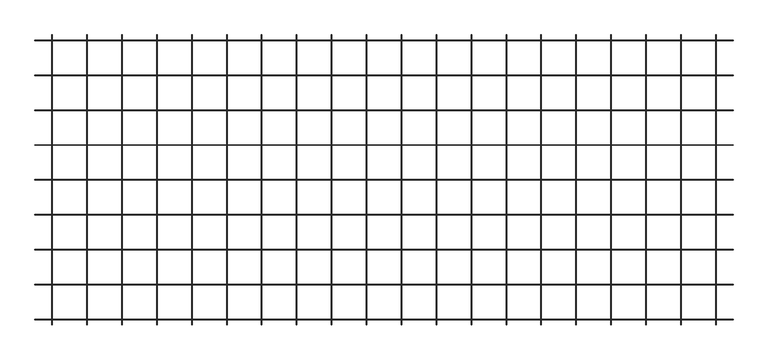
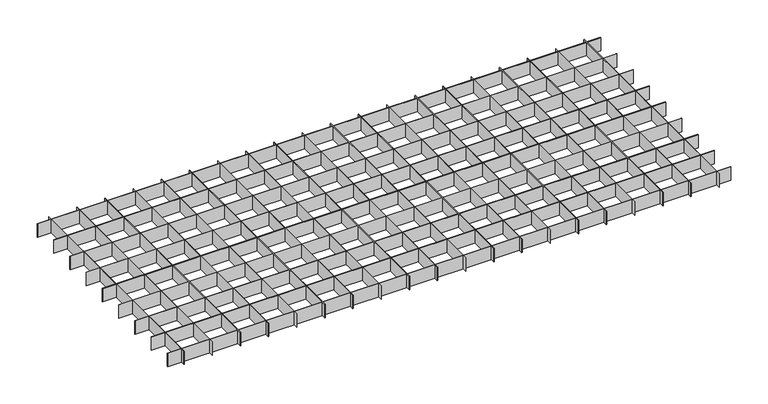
"""IFC4 building model written with IfcOpenShell, lengths in millimetres: proxy geometry, durlum_QUADRA_panel : durlum_QUADRA_width_cut."""

from ifc_helpers import new_model, si_unit, origin, origin_with_axes, place, context, project, spatial, polyline, outline, extrude, source, transform, mapped, element, save


def generic_models_770e7c39(model_context):
    return source(origin(), model_context, "Body", "SweptSolid", [
        extrude(outline(polyline([(509.6, 249.5), (510.4, 249.5), (510.4, -249.5), (509.6, -249.5), (509.6, 249.5)])), origin_with_axes(), (0.0, 0.0, 1.0), 30.0),
        extrude(outline(polyline([(449.6, 249.5), (450.4, 249.5), (450.4, -249.5), (449.6, -249.5), (449.6, 249.5)])), origin_with_axes(), (0.0, 0.0, 1.0), 30.0),
        extrude(outline(polyline([(389.6, 249.5), (390.4, 249.5), (390.4, -249.5), (389.6, -249.5), (389.6, 249.5)])), origin_with_axes(), (0.0, 0.0, 1.0), 30.0),
        extrude(outline(polyline([(329.6, 249.5), (330.4, 249.5), (330.4, -249.5), (329.6, -249.5), (329.6, 249.5)])), origin_with_axes(), (0.0, 0.0, 1.0), 30.0),
        extrude(outline(polyline([(269.6, 249.5), (270.4, 249.5), (270.4, -249.5), (269.6, -249.5), (269.6, 249.5)])), origin_with_axes(), (0.0, 0.0, 1.0), 30.0),
        extrude(outline(polyline([(599.5, -179.6), (599.5, -180.4), (-599.5, -180.4), (-599.5, -179.6), (599.5, -179.6)])), origin_with_axes(), (0.0, 0.0, 1.0), 30.0),
        extrude(outline(polyline([(209.6, 249.5), (210.4, 249.5), (210.4, -249.5), (209.6, -249.5), (209.6, 249.5)])), origin_with_axes(), (0.0, 0.0, 1.0), 30.0),
        extrude(outline(polyline([(149.6, 249.5), (150.4, 249.5), (150.4, -249.5), (149.6, -249.5), (149.6, 249.5)])), origin_with_axes(), (0.0, 0.0, 1.0), 30.0),
        extrude(outline(polyline([(89.6, 249.5), (90.4, 249.5), (90.4, -249.5), (89.6, -249.5), (89.6, 249.5)])), origin_with_axes(), (0.0, 0.0, 1.0), 30.0),
        extrude(outline(polyline([(29.6, 249.5), (30.4, 249.5), (30.4, -249.5), (29.6, -249.5), (29.6, 249.5)])), origin_with_axes(), (0.0, 0.0, 1.0), 30.0),
        extrude(outline(polyline([(-30.4, 249.5), (-29.6, 249.5), (-29.6, -249.5), (-30.4, -249.5), (-30.4, 249.5)])), origin_with_axes(), (0.0, 0.0, 1.0), 30.0),
        extrude(outline(polyline([(-90.4, 249.5), (-89.6, 249.5), (-89.6, -249.5), (-90.4, -249.5), (-90.4, 249.5)])), origin_with_axes(), (0.0, 0.0, 1.0), 30.0),
        extrude(outline(polyline([(-150.4, 249.5), (-149.6, 249.5), (-149.6, -249.5), (-150.4, -249.5), (-150.4, 249.5)])), origin_with_axes(), (0.0, 0.0, 1.0), 30.0),
        extrude(outline(polyline([(-210.4, 249.5), (-209.6, 249.5), (-209.6, -249.5), (-210.4, -249.5), (-210.4, 249.5)])), origin_with_axes(), (0.0, 0.0, 1.0), 30.0),
        extrude(outline(polyline([(-270.4, 249.5), (-269.6, 249.5), (-269.6, -249.5), (-270.4, -249.5), (-270.4, 249.5)])), origin_with_axes(), (0.0, 0.0, 1.0), 30.0),
        extrude(outline(polyline([(-330.4, 249.5), (-329.6, 249.5), (-329.6, -249.5), (-330.4, -249.5), (-330.4, 249.5)])), origin_with_axes(), (0.0, 0.0, 1.0), 30.0),
        extrude(outline(polyline([(-390.4, 249.5), (-389.6, 249.5), (-389.6, -249.5), (-390.4, -249.5), (-390.4, 249.5)])), origin_with_axes(), (0.0, 0.0, 1.0), 30.0),
        extrude(outline(polyline([(-450.4, 249.5), (-449.6, 249.5), (-449.6, -249.5), (-450.4, -249.5), (-450.4, 249.5)])), origin_with_axes(), (0.0, 0.0, 1.0), 30.0),
        extrude(outline(polyline([(-510.4, 249.5), (-509.6, 249.5), (-509.6, -249.5), (-510.4, -249.5), (-510.4, 249.5)])), origin_with_axes(), (0.0, 0.0, 1.0), 30.0),
        extrude(outline(polyline([(599.5, -119.6), (599.5, -120.4), (-599.5, -120.4), (-599.5, -119.6), (599.5, -119.6)])), origin_with_axes(), (0.0, 0.0, 1.0), 30.0),
        extrude(outline(polyline([(599.5, -59.6), (599.5, -60.4), (-599.5, -60.4), (-599.5, -59.6), (599.5, -59.6)])), origin_with_axes(), (0.0, 0.0, 1.0), 30.0),
        extrude(outline(polyline([(599.5, 0.4), (599.5, -0.4), (-599.5, -0.4), (-599.5, 0.4), (599.5, 0.4)])), origin_with_axes(), (0.0, 0.0, 1.0), 30.0),
        extrude(outline(polyline([(599.5, 60.4), (599.5, 59.6), (-599.5, 59.6), (-599.5, 60.4), (599.5, 60.4)])), origin_with_axes(), (0.0, 0.0, 1.0), 30.0),
        extrude(outline(polyline([(599.5, 120.4), (599.5, 119.6), (-599.5, 119.6), (-599.5, 120.4), (599.5, 120.4)])), origin_with_axes(), (0.0, 0.0, 1.0), 30.0),
        extrude(outline(polyline([(599.5, 180.4), (599.5, 179.6), (-599.5, 179.6), (-599.5, 180.4), (599.5, 180.4)])), origin_with_axes(), (0.0, 0.0, 1.0), 30.0),
        extrude(outline(polyline([(569.6, 249.5), (570.4, 249.5), (570.4, -249.5), (569.6, -249.5), (569.6, 249.5)])), origin_with_axes(), (0.0, 0.0, 1.0), 30.0),
        extrude(outline(polyline([(-570.4, 249.5), (-569.6, 249.5), (-569.6, -249.5), (-570.4, -249.5), (-570.4, 249.5)])), origin_with_axes(), (0.0, 0.0, 1.0), 30.0),
        extrude(outline(polyline([(599.5, -239.6), (599.5, -240.4), (-599.5, -240.4), (-599.5, -239.6), (599.5, -239.6)])), origin_with_axes(), (0.0, 0.0, 1.0), 30.0),
        extrude(outline(polyline([(599.5, 240.4), (599.5, 239.6), (-599.5, 239.6), (-599.5, 240.4), (599.5, 240.4)])), origin_with_axes(), (0.0, 0.0, 1.0), 30.0),
    ])


if __name__ == "__main__":
    model = new_model("IFC4")
    model_context = context("Model", 3, world=origin())
    ifc_project = project(units=[si_unit("LENGTHUNIT", "METRE", prefix="MILLI")], contexts=[model_context])
    site = spatial("IfcSite", under=ifc_project)
    building = spatial("IfcBuilding", under=site)
    placement = place(None, origin())
    generic_models_shape = generic_models_770e7c39(model_context)
    element("IfcBuildingElementProxy", 1, Name="durlum_QUADRA_panel : durlum_QUADRA_width_cut", ObjectType="durlum_QUADRA_panel : durlum_QUADRA_width_cut", at=placement, inside=building, context=model_context, shape_type="MappedRepresentation", body=[
        mapped(generic_models_shape, transform((0.0, 0.0, 0.0), x_axis=(1.0, 0.0, 0.0), y_axis=(0.0, 1.0, 0.0), z_axis=(0.0, 0.0, 1.0))),
    ])
    save(model, "model.ifc")
